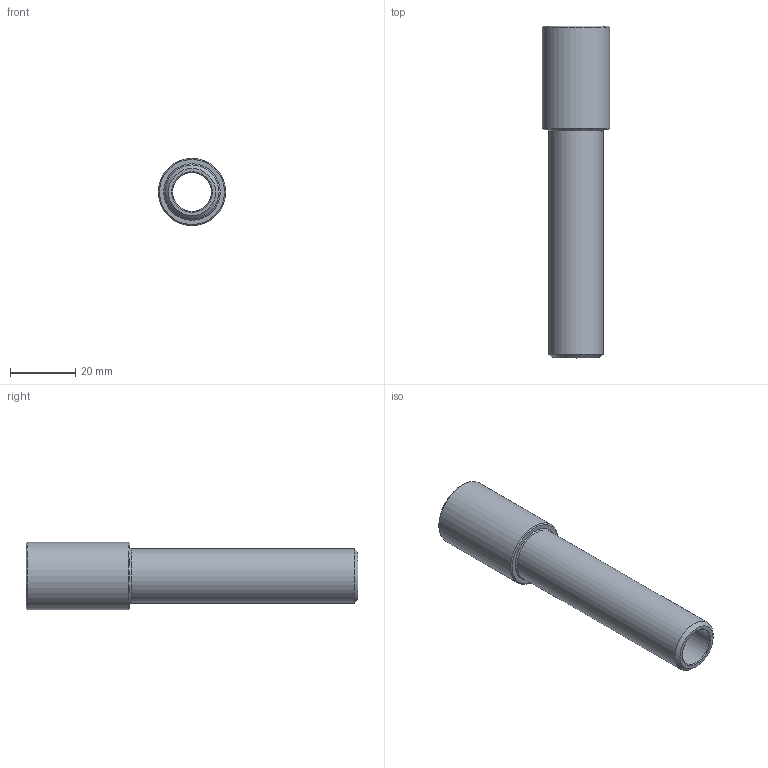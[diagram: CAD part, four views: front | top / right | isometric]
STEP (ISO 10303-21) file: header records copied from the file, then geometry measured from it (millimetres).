
FILE_DESCRIPTION(/* description */ (''),/* implementation_level */ '2;1');
FILE_NAME(/* name */ 'C:/Users/drich/Desktop/EP38X4 v1.step',/* time_stamp */ '2019-11-18T15:06:43-06:00',/* author */ (''),/* organization */ (''),/* preprocessor_version */ 'ST-DEVELOPER v18',/* originating_system */ 'Autodesk Translation Framework v8.12.0.6',/* authorisation */ '');
FILE_SCHEMA (('AUTOMOTIVE_DESIGN { 1 0 10303 214 3 1 1 }'));
Length unit declared in the file: inch
Products named in the file (2): EP38X4; EP38X4_1
Assembly tree (1 placements, depth 2):
  EP38X4
    EP38X4_1
Bounding box: 20.62 x 101.6 x 20.62 mm (x, y, z)
Volume: 12714.2 mm3; surface area: 10130.1 mm2
Topology: 1 solids, 1 shells, 23 faces, 55 edges, 37 vertices
Faces by surface type: plane 11, cone 7, cylinder 5
Full cylindrical faces by diameter (mm): 11.887 x1, 14.986 x1, 15.173 x1, 16.537 x1, 20.625 x1
Entity records: 740 total; most frequent: CARTESIAN_POINT 132, DIRECTION 124, ORIENTED_EDGE 110, EDGE_CURVE 55, AXIS2_PLACEMENT_3D 50, VERTEX_POINT 37, EDGE_LOOP 28, LINE 24
